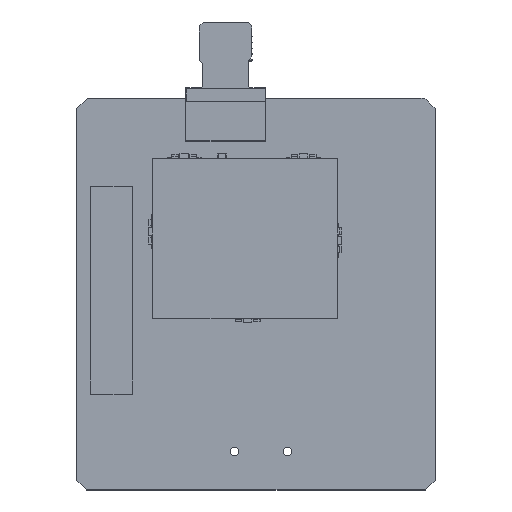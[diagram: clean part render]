
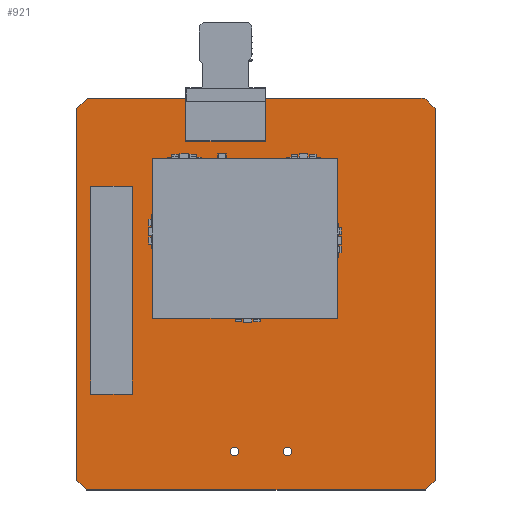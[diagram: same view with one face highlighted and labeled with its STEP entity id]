
A CAD part, top view. The second image highlights one B-rep face of the part: STEP entity #921.
In plain terms, the highlighted planar face has unit normal (0, 0, 1).
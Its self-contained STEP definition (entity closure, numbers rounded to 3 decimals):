
#256 = VERTEX_POINT('',#257);
#257 = CARTESIAN_POINT('',(-0.036,1.103,1.6));
#263 = EDGE_CURVE('',#256,#264,#266,.T.);
#264 = VERTEX_POINT('',#265);
#265 = CARTESIAN_POINT('',(-0.05,1.139,1.6));
#266 = CIRCLE('',#267,0.044);
#267 = AXIS2_PLACEMENT_3D('',#268,#269,#270);
#268 = CARTESIAN_POINT('',(-0.006,1.135,1.6));
#269 = DIRECTION('',(0.,0.,-1.));
#270 = DIRECTION('',(-0.679,-0.734,-0.));
#296 = EDGE_CURVE('',#264,#297,#299,.T.);
#297 = VERTEX_POINT('',#298);
#298 = CARTESIAN_POINT('',(-0.05,45.755,1.6));
#299 = LINE('',#300,#301);
#300 = CARTESIAN_POINT('',(-0.05,1.139,1.6));
#301 = VECTOR('',#302,1.);
#302 = DIRECTION('',(0.,1.,0.));
#327 = EDGE_CURVE('',#297,#328,#330,.T.);
#328 = VERTEX_POINT('',#329);
#329 = CARTESIAN_POINT('',(-0.036,45.791,1.6));
#330 = CIRCLE('',#331,0.055);
#331 = AXIS2_PLACEMENT_3D('',#332,#333,#334);
#332 = CARTESIAN_POINT('',(0.005,45.754,1.6));
#333 = DIRECTION('',(0.,0.,-1.));
#334 = DIRECTION('',(-1.,0.01,0.));
#360 = EDGE_CURVE('',#328,#361,#363,.T.);
#361 = VERTEX_POINT('',#362);
#362 = CARTESIAN_POINT('',(1.209,47.035,1.6));
#363 = LINE('',#364,#365);
#364 = CARTESIAN_POINT('',(-0.036,45.791,1.6));
#365 = VECTOR('',#366,1.);
#366 = DIRECTION('',(0.707,0.707,0.));
#391 = EDGE_CURVE('',#361,#392,#394,.T.);
#392 = VERTEX_POINT('',#393);
#393 = CARTESIAN_POINT('',(1.245,47.05,1.6));
#394 = CIRCLE('',#395,0.05);
#395 = AXIS2_PLACEMENT_3D('',#396,#397,#398);
#396 = CARTESIAN_POINT('',(1.245,47.001,1.6));
#397 = DIRECTION('',(0.,0.,-1.));
#398 = DIRECTION('',(-0.717,0.697,0.));
#424 = EDGE_CURVE('',#392,#425,#427,.T.);
#425 = VERTEX_POINT('',#426);
#426 = CARTESIAN_POINT('',(41.326,47.066,1.6));
#427 = LINE('',#428,#429);
#428 = CARTESIAN_POINT('',(1.245,47.05,1.6));
#429 = VECTOR('',#430,1.);
#430 = DIRECTION('',(1.,0.,0.));
#455 = EDGE_CURVE('',#425,#456,#458,.T.);
#456 = VERTEX_POINT('',#457);
#457 = CARTESIAN_POINT('',(41.78,47.066,1.6));
#458 = LINE('',#459,#460);
#459 = CARTESIAN_POINT('',(41.326,47.066,1.6));
#460 = VECTOR('',#461,1.);
#461 = DIRECTION('',(1.,0.,0.));
#486 = EDGE_CURVE('',#456,#487,#489,.T.);
#487 = VERTEX_POINT('',#488);
#488 = CARTESIAN_POINT('',(41.816,47.051,1.6));
#489 = CIRCLE('',#490,0.054);
#490 = AXIS2_PLACEMENT_3D('',#491,#492,#493);
#491 = CARTESIAN_POINT('',(41.778,47.012,1.6));
#492 = DIRECTION('',(0.,0.,-1.));
#493 = DIRECTION('',(0.028,1.,0.));
#519 = EDGE_CURVE('',#487,#520,#522,.T.);
#520 = VERTEX_POINT('',#521);
#521 = CARTESIAN_POINT('',(42.023,46.844,1.6));
#522 = LINE('',#523,#524);
#523 = CARTESIAN_POINT('',(41.816,47.051,1.6));
#524 = VECTOR('',#525,1.);
#525 = DIRECTION('',(0.707,-0.707,0.));
#550 = EDGE_CURVE('',#520,#551,#553,.T.);
#551 = VERTEX_POINT('',#552);
#552 = CARTESIAN_POINT('',(43.03,45.837,1.6));
#553 = LINE('',#554,#555);
#554 = CARTESIAN_POINT('',(42.023,46.844,1.6));
#555 = VECTOR('',#556,1.);
#556 = DIRECTION('',(0.707,-0.707,0.));
#581 = EDGE_CURVE('',#551,#582,#584,.T.);
#582 = VERTEX_POINT('',#583);
#583 = CARTESIAN_POINT('',(43.05,45.785,1.6));
#584 = CIRCLE('',#585,0.049);
#585 = AXIS2_PLACEMENT_3D('',#586,#587,#588);
#586 = CARTESIAN_POINT('',(43.003,45.797,1.6));
#587 = DIRECTION('',(0.,0.,-1.));
#588 = DIRECTION('',(0.56,0.829,0.));
#614 = EDGE_CURVE('',#582,#615,#617,.T.);
#615 = VERTEX_POINT('',#616);
#616 = CARTESIAN_POINT('',(43.051,1.141,1.6));
#617 = LINE('',#618,#619);
#618 = CARTESIAN_POINT('',(43.05,45.785,1.6));
#619 = VECTOR('',#620,1.);
#620 = DIRECTION('',(0.,-1.,0.));
#645 = EDGE_CURVE('',#615,#646,#648,.T.);
#646 = VERTEX_POINT('',#647);
#647 = CARTESIAN_POINT('',(43.037,1.105,1.6));
#648 = CIRCLE('',#649,0.044);
#649 = AXIS2_PLACEMENT_3D('',#650,#651,#652);
#650 = CARTESIAN_POINT('',(43.007,1.137,1.6));
#651 = DIRECTION('',(0.,0.,-1.));
#652 = DIRECTION('',(0.997,0.082,0.));
#678 = EDGE_CURVE('',#646,#679,#681,.T.);
#679 = VERTEX_POINT('',#680);
#680 = CARTESIAN_POINT('',(41.888,-0.036,1.6));
#681 = LINE('',#682,#683);
#682 = CARTESIAN_POINT('',(43.037,1.105,1.6));
#683 = VECTOR('',#684,1.);
#684 = DIRECTION('',(-0.71,-0.705,0.));
#709 = EDGE_CURVE('',#679,#710,#712,.T.);
#710 = VERTEX_POINT('',#711);
#711 = CARTESIAN_POINT('',(41.852,-0.05,1.6));
#712 = CIRCLE('',#713,0.048);
#713 = AXIS2_PLACEMENT_3D('',#714,#715,#716);
#714 = CARTESIAN_POINT('',(41.854,-0.002,1.6));
#715 = DIRECTION('',(0.,0.,-1.));
#716 = DIRECTION('',(0.709,-0.705,0.));
#742 = EDGE_CURVE('',#710,#743,#745,.T.);
#743 = VERTEX_POINT('',#744);
#744 = CARTESIAN_POINT('',(1.139,-0.05,1.6));
#745 = LINE('',#746,#747);
#746 = CARTESIAN_POINT('',(41.852,-0.05,1.6));
#747 = VECTOR('',#748,1.);
#748 = DIRECTION('',(-1.,0.,0.));
#773 = EDGE_CURVE('',#743,#774,#776,.T.);
#774 = VERTEX_POINT('',#775);
#775 = CARTESIAN_POINT('',(1.103,-0.036,1.6));
#776 = CIRCLE('',#777,0.048);
#777 = AXIS2_PLACEMENT_3D('',#778,#779,#780);
#778 = CARTESIAN_POINT('',(1.137,-0.002,1.6));
#779 = DIRECTION('',(0.,0.,-1.));
#780 = DIRECTION('',(0.047,-0.999,0.));
#806 = EDGE_CURVE('',#774,#256,#807,.T.);
#807 = LINE('',#808,#809);
#808 = CARTESIAN_POINT('',(1.103,-0.036,1.6));
#809 = VECTOR('',#810,1.);
#810 = DIRECTION('',(-0.707,0.707,0.));
#830 = VERTEX_POINT('',#831);
#831 = CARTESIAN_POINT('',(19.426,4.579,1.6));
#837 = EDGE_CURVE('',#830,#830,#838,.T.);
#838 = CIRCLE('',#839,0.5);
#839 = AXIS2_PLACEMENT_3D('',#840,#841,#842);
#840 = CARTESIAN_POINT('',(18.926,4.579,1.6));
#841 = DIRECTION('',(0.,0.,1.));
#842 = DIRECTION('',(1.,0.,-0.));
#863 = VERTEX_POINT('',#864);
#864 = CARTESIAN_POINT('',(25.776,4.579,1.6));
#870 = EDGE_CURVE('',#863,#863,#871,.T.);
#871 = CIRCLE('',#872,0.5);
#872 = AXIS2_PLACEMENT_3D('',#873,#874,#875);
#873 = CARTESIAN_POINT('',(25.276,4.579,1.6));
#874 = DIRECTION('',(0.,0.,1.));
#875 = DIRECTION('',(1.,0.,-0.));
#921 = ADVANCED_FACE('',(#922,#942,#945),#948,.F.);
#922 = FACE_BOUND('',#923,.F.);
#923 = EDGE_LOOP('',(#924,#925,#926,#927,#928,#929,#930,#931,#932,#933,
    #934,#935,#936,#937,#938,#939,#940,#941));
#924 = ORIENTED_EDGE('',*,*,#263,.T.);
#925 = ORIENTED_EDGE('',*,*,#296,.T.);
#926 = ORIENTED_EDGE('',*,*,#327,.T.);
#927 = ORIENTED_EDGE('',*,*,#360,.T.);
#928 = ORIENTED_EDGE('',*,*,#391,.T.);
#929 = ORIENTED_EDGE('',*,*,#424,.T.);
#930 = ORIENTED_EDGE('',*,*,#455,.T.);
#931 = ORIENTED_EDGE('',*,*,#486,.T.);
#932 = ORIENTED_EDGE('',*,*,#519,.T.);
#933 = ORIENTED_EDGE('',*,*,#550,.T.);
#934 = ORIENTED_EDGE('',*,*,#581,.T.);
#935 = ORIENTED_EDGE('',*,*,#614,.T.);
#936 = ORIENTED_EDGE('',*,*,#645,.T.);
#937 = ORIENTED_EDGE('',*,*,#678,.T.);
#938 = ORIENTED_EDGE('',*,*,#709,.T.);
#939 = ORIENTED_EDGE('',*,*,#742,.T.);
#940 = ORIENTED_EDGE('',*,*,#773,.T.);
#941 = ORIENTED_EDGE('',*,*,#806,.T.);
#942 = FACE_BOUND('',#943,.F.);
#943 = EDGE_LOOP('',(#944));
#944 = ORIENTED_EDGE('',*,*,#837,.T.);
#945 = FACE_BOUND('',#946,.F.);
#946 = EDGE_LOOP('',(#947));
#947 = ORIENTED_EDGE('',*,*,#870,.T.);
#948 = PLANE('',#949);
#949 = AXIS2_PLACEMENT_3D('',#950,#951,#952);
#950 = CARTESIAN_POINT('',(21.504,23.489,1.6));
#951 = DIRECTION('',(-0.,-0.,-1.));
#952 = DIRECTION('',(-1.,0.,0.));
